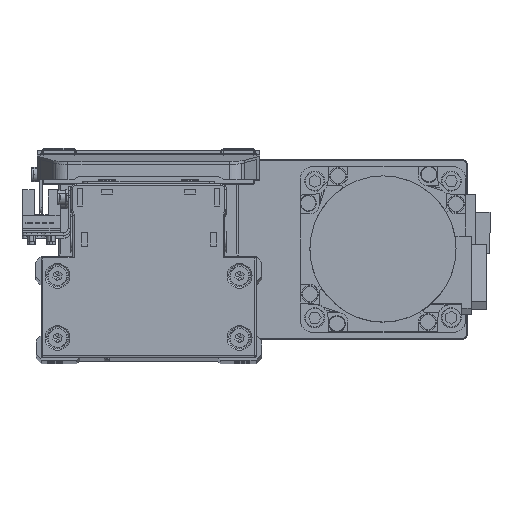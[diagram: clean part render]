
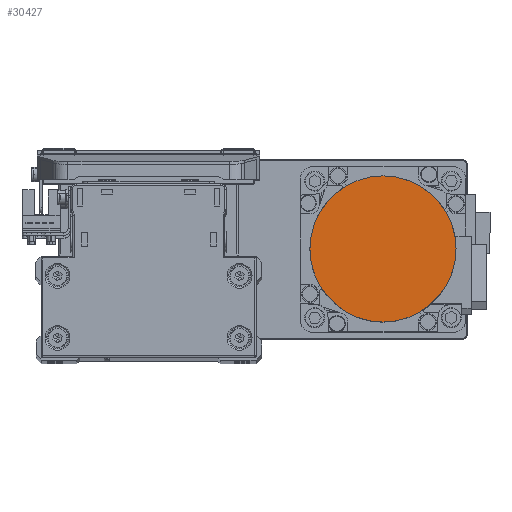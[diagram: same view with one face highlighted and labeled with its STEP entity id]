
A CAD part, top view. The second image highlights one B-rep face of the part: STEP entity #30427.
In plain terms, the highlighted planar face has unit normal (0, 0, 1) as drawn and (0, 0, -1) by its records, which use the part's own axes.
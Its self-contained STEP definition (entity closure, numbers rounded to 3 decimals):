
#599 = FACE_OUTER_BOUND ( 'NONE', #21656, .T. ) ;
#2611 = DIRECTION ( 'NONE',  ( -1., 0., 0. ) ) ;
#4857 = DIRECTION ( 'NONE',  ( 0., 0., 1. ) ) ;
#8806 = AXIS2_PLACEMENT_3D ( 'NONE', #25902, #38549, #10130 ) ;
#9688 = CIRCLE ( 'NONE', #32876, 26.5 ) ;
#10130 = DIRECTION ( 'NONE',  ( 1., 0., 0. ) ) ;
#11008 = ORIENTED_EDGE ( 'NONE', *, *, #27901, .F. ) ;
#11685 = EDGE_CURVE ( 'NONE', #35714, #15256, #9688, .T. ) ;
#13243 = PLANE ( 'NONE',  #8806 ) ;
#14217 = CIRCLE ( 'NONE', #37409, 26.5 ) ;
#15256 = VERTEX_POINT ( 'NONE', #19503 ) ;
#17507 = DIRECTION ( 'NONE',  ( 1., 0., 0. ) ) ;
#18362 = CARTESIAN_POINT ( 'NONE',  ( 0., 0., -109.7 ) ) ;
#19503 = CARTESIAN_POINT ( 'NONE',  ( 26.5, 0., -109.7 ) ) ;
#19873 = ORIENTED_EDGE ( 'NONE', *, *, #11685, .F. ) ;
#21656 = EDGE_LOOP ( 'NONE', ( #19873, #11008 ) ) ;
#25902 = CARTESIAN_POINT ( 'NONE',  ( 0., 0., -109.7 ) ) ;
#27901 = EDGE_CURVE ( 'NONE', #15256, #35714, #14217, .T. ) ;
#30427 = ADVANCED_FACE ( 'NONE', ( #599 ), #13243, .F. ) ;
#31027 = DIRECTION ( 'NONE',  ( 0., 0., 1. ) ) ;
#32876 = AXIS2_PLACEMENT_3D ( 'NONE', #18362, #31027, #2611 ) ;
#33275 = CARTESIAN_POINT ( 'NONE',  ( 0., 0., -109.7 ) ) ;
#35568 = CARTESIAN_POINT ( 'NONE',  ( -26.5, 0., -109.7 ) ) ;
#35714 = VERTEX_POINT ( 'NONE', #35568 ) ;
#37409 = AXIS2_PLACEMENT_3D ( 'NONE', #33275, #4857, #17507 ) ;
#38549 = DIRECTION ( 'NONE',  ( 0., 0., 1. ) ) ;
